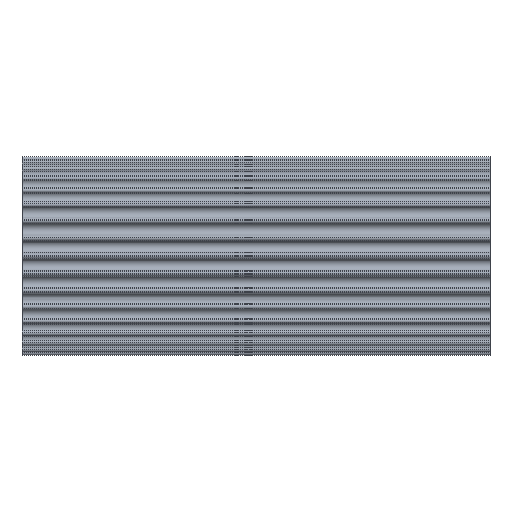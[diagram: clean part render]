
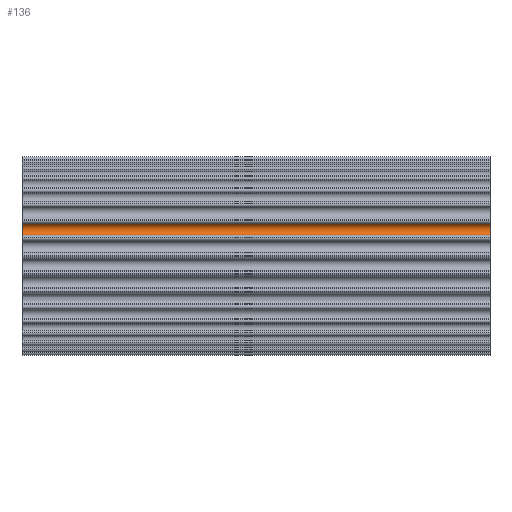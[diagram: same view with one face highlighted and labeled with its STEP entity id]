
A CAD part, top view. The second image highlights one B-rep face of the part: STEP entity #136.
In plain terms, the highlighted cylindrical face has radius 2.629 mm (diameter 5.258 mm), a partial arc.
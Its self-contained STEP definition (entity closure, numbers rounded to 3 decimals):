
#136 = ADVANCED_FACE( '', ( #404 ), #405, .F. );
#404 = FACE_OUTER_BOUND( '', #816, .T. );
#405 = CYLINDRICAL_SURFACE( '', #817, 2.629 );
#816 = EDGE_LOOP( '', ( #1933, #1934, #1935, #1936 ) );
#817 = AXIS2_PLACEMENT_3D( '', #1937, #1938, #1939 );
#1933 = ORIENTED_EDGE( '', *, *, #3203, .T. );
#1934 = ORIENTED_EDGE( '', *, *, #3421, .F. );
#1935 = ORIENTED_EDGE( '', *, *, #3118, .F. );
#1936 = ORIENTED_EDGE( '', *, *, #3420, .T. );
#1937 = CARTESIAN_POINT( '', ( 0., 11.393, 40.041 ) );
#1938 = DIRECTION( '', ( -1., 0., 0. ) );
#1939 = DIRECTION( '', ( 0., 0.962, -0.274 ) );
#3118 = EDGE_CURVE( '', #3896, #3898, #3899, .T. );
#3203 = EDGE_CURVE( '', #4062, #4060, #4063, .T. );
#3420 = EDGE_CURVE( '', #3896, #4062, #4440, .T. );
#3421 = EDGE_CURVE( '', #3898, #4060, #4441, .T. );
#3896 = VERTEX_POINT( '', #4975 );
#3898 = VERTEX_POINT( '', #4978 );
#3899 = CIRCLE( '', #4979, 2.629 );
#4060 = VERTEX_POINT( '', #5171 );
#4062 = VERTEX_POINT( '', #5174 );
#4063 = CIRCLE( '', #5175, 2.629 );
#4440 = LINE( '', #5660, #5661 );
#4441 = LINE( '', #5662, #5663 );
#4975 = CARTESIAN_POINT( '', ( 0., 8.766, 40.156 ) );
#4978 = CARTESIAN_POINT( '', ( 0., 13.686, 38.756 ) );
#4979 = AXIS2_PLACEMENT_3D( '', #6330, #6331, #6332 );
#5171 = CARTESIAN_POINT( '', ( 200., 13.686, 38.756 ) );
#5174 = CARTESIAN_POINT( '', ( 200., 8.766, 40.156 ) );
#5175 = AXIS2_PLACEMENT_3D( '', #6521, #6522, #6523 );
#5660 = CARTESIAN_POINT( '', ( 0., 8.766, 40.156 ) );
#5661 = VECTOR( '', #6956, 1000. );
#5662 = CARTESIAN_POINT( '', ( 0., 13.686, 38.756 ) );
#5663 = VECTOR( '', #6957, 1000. );
#6330 = CARTESIAN_POINT( '', ( 0., 11.393, 40.041 ) );
#6331 = DIRECTION( '', ( 1., 0., 0. ) );
#6332 = DIRECTION( '', ( 0., 0.962, -0.274 ) );
#6521 = CARTESIAN_POINT( '', ( 200., 11.393, 40.041 ) );
#6522 = DIRECTION( '', ( 1., 0., 0. ) );
#6523 = DIRECTION( '', ( 0., 0.962, -0.274 ) );
#6956 = DIRECTION( '', ( 1., 0., 0. ) );
#6957 = DIRECTION( '', ( 1., 0., 0. ) );
